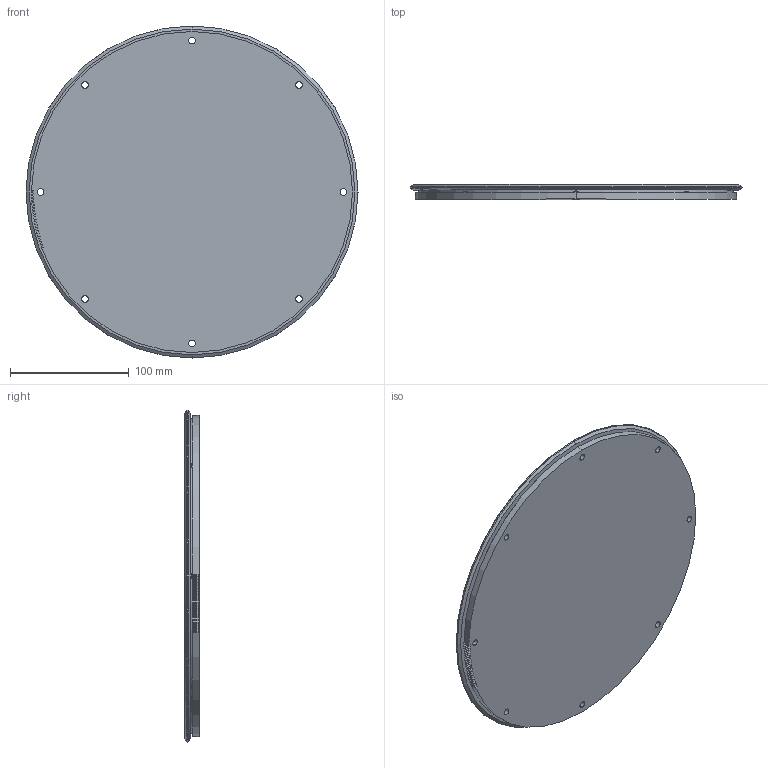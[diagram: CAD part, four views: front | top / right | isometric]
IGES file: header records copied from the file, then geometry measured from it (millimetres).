
Start section: 3D InterOp IGES (v. 2020 1.0.1), Spatial Corp. Copyright (c) 1999-2017.
Global section: file name: rd25_255_p_l.igs; native system: Spatial Corp.; preprocessor: 3D InterOp ACIS/IGES; author: TraceParts; organization: TraceParts S.A.; date: 20220624.041541; units: millimetre
Bounding box: 279.61 x 12.25 x 279.61 mm (x, y, z)
Surface area: 142103.2 mm2 (no closed solid volume)
Topology: 0 solids, 0 shells, 166 faces, 898 edges, 898 vertices
Faces by surface type: extrusion 115, revolution 51
